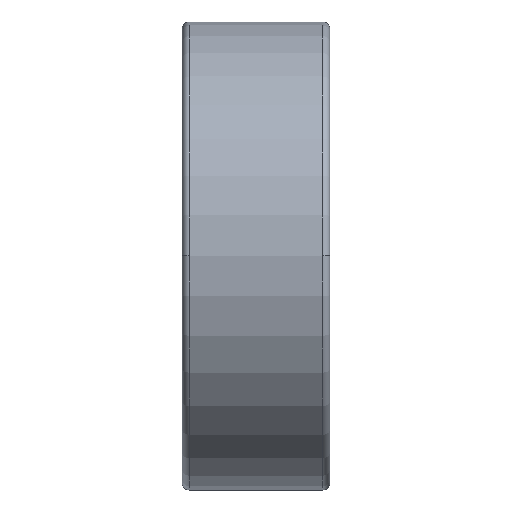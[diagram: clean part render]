
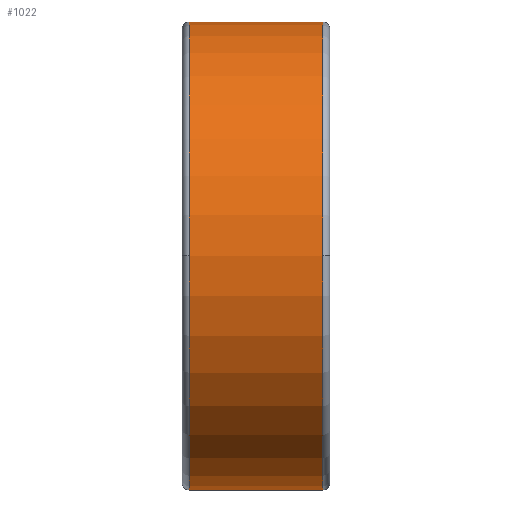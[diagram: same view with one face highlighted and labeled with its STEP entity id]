
A CAD part, top view. The second image highlights one B-rep face of the part: STEP entity #1022.
In plain terms, the highlighted cylindrical face has radius 9.5 mm (diameter 19 mm), a partial arc.
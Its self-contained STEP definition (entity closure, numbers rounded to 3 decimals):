
#130=CARTESIAN_POINT('',(0.3,0.,9.5));
#131=VERTEX_POINT('',#130);
#141=CARTESIAN_POINT('',(0.3,9.5,0.0));
#142=VERTEX_POINT('',#141);
#143=CARTESIAN_POINT('',(0.3,0.0,0.0));
#144=DIRECTION('',(-1.0,0.0,0.0));
#145=DIRECTION('',(0.0,1.0,0.0));
#146=AXIS2_PLACEMENT_3D('',#143,#144,#145);
#147=CIRCLE('',#146,9.5);
#148=EDGE_CURVE('',#131,#142,#147,.T.);
#192=CARTESIAN_POINT('',(5.7,9.5,0.0));
#193=VERTEX_POINT('',#192);
#194=CARTESIAN_POINT('',(5.7,9.5,0.0));
#195=DIRECTION('',(-1.0,0.0,0.0));
#196=VECTOR('',#195,5.4);
#197=LINE('',#194,#196);
#198=EDGE_CURVE('',#193,#142,#197,.T.);
#209=CARTESIAN_POINT('',(5.7,-9.5,0.));
#210=VERTEX_POINT('',#209);
#218=CARTESIAN_POINT('',(0.3,-9.5,0.));
#219=VERTEX_POINT('',#218);
#220=CARTESIAN_POINT('',(0.3,-9.5,0.));
#221=DIRECTION('',(1.0,0.0,0.0));
#222=VECTOR('',#221,5.4);
#223=LINE('',#220,#222);
#224=EDGE_CURVE('',#219,#210,#223,.T.);
#244=CARTESIAN_POINT('',(5.7,0.,9.5));
#245=VERTEX_POINT('',#244);
#279=CARTESIAN_POINT('',(5.7,0.0,0.0));
#280=DIRECTION('',(-1.0,0.0,0.0));
#281=DIRECTION('',(0.0,1.0,0.0));
#282=AXIS2_PLACEMENT_3D('',#279,#280,#281);
#283=CIRCLE('',#282,9.5);
#284=EDGE_CURVE('',#245,#193,#283,.T.);
#990=CARTESIAN_POINT('',(5.7,0.0,0.0));
#991=DIRECTION('',(-1.0,0.0,0.0));
#992=DIRECTION('',(0.0,1.0,0.0));
#993=AXIS2_PLACEMENT_3D('',#990,#991,#992);
#994=CIRCLE('',#993,9.5);
#995=EDGE_CURVE('',#210,#245,#994,.T.);
#1003=CARTESIAN_POINT('',(3.,0.0,0.0));
#1004=DIRECTION('',(-1.0,0.0,0.0));
#1005=DIRECTION('',(0.0,1.0,0.0));
#1006=AXIS2_PLACEMENT_3D('',#1003,#1004,#1005);
#1007=CYLINDRICAL_SURFACE('',#1006,9.5);
#1008=ORIENTED_EDGE('',*,*,#198,.T.);
#1009=ORIENTED_EDGE('',*,*,#148,.F.);
#1010=CARTESIAN_POINT('',(0.3,0.0,0.0));
#1011=DIRECTION('',(-1.0,0.0,0.0));
#1012=DIRECTION('',(0.0,1.0,0.0));
#1013=AXIS2_PLACEMENT_3D('',#1010,#1011,#1012);
#1014=CIRCLE('',#1013,9.5);
#1015=EDGE_CURVE('',#219,#131,#1014,.T.);
#1016=ORIENTED_EDGE('',*,*,#1015,.F.);
#1017=ORIENTED_EDGE('',*,*,#224,.T.);
#1018=ORIENTED_EDGE('',*,*,#995,.T.);
#1019=ORIENTED_EDGE('',*,*,#284,.T.);
#1020=EDGE_LOOP('',(#1008,#1009,#1016,#1017,#1018,#1019));
#1021=FACE_OUTER_BOUND('',#1020,.T.);
#1022=ADVANCED_FACE('',(#1021),#1007,.T.);
